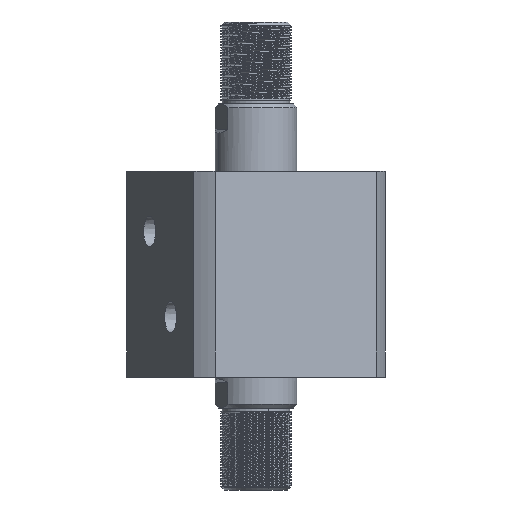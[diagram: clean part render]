
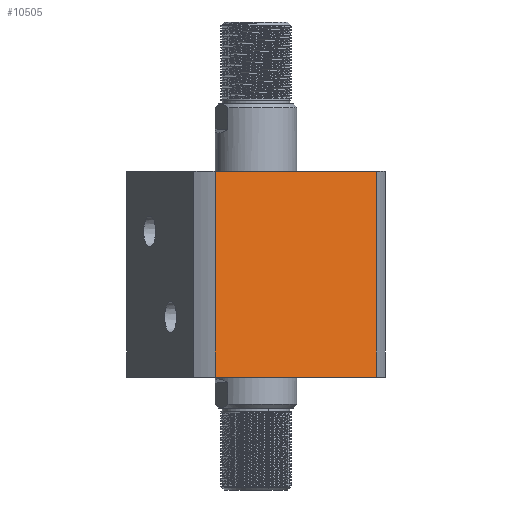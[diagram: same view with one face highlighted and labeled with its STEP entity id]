
A CAD part, front view. The second image highlights one B-rep face of the part: STEP entity #10505.
In plain terms, the highlighted planar face has unit normal (0.383, -0.924, 0) as drawn and (-1, 0, 0) by its records, which use the part's own axes.
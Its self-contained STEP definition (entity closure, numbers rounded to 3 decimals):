
#1343 = CARTESIAN_POINT ( 'NONE',  ( -57., 57., 113. ) ) ;
#1498 = VECTOR ( 'NONE', #13048, 1000. ) ;
#1972 = EDGE_CURVE ( 'NONE', #12703, #7599, #18867, .T. ) ;
#2282 = VECTOR ( 'NONE', #12589, 1000. ) ;
#2599 = CARTESIAN_POINT ( 'NONE',  ( -57., -47.971, -2887. ) ) ;
#3369 = DIRECTION ( 'NONE',  ( 1., 0., 0. ) ) ;
#3516 = CARTESIAN_POINT ( 'NONE',  ( -57., -47.971, 113. ) ) ;
#3568 = LINE ( 'NONE', #2599, #2282 ) ;
#3741 = DIRECTION ( 'NONE',  ( 0., -1., 0. ) ) ;
#4020 = ORIENTED_EDGE ( 'NONE', *, *, #17173, .F. ) ;
#5217 = PLANE ( 'NONE',  #15498 ) ;
#5273 = EDGE_CURVE ( 'NONE', #12703, #20156, #24832, .T. ) ;
#5755 = CARTESIAN_POINT ( 'NONE',  ( -57., 57., 113. ) ) ;
#6266 = CARTESIAN_POINT ( 'NONE',  ( -57., -47.971, 0. ) ) ;
#7599 = VERTEX_POINT ( 'NONE', #6266 ) ;
#7851 = DIRECTION ( 'NONE',  ( 0., 0., 1. ) ) ;
#8734 = ORIENTED_EDGE ( 'NONE', *, *, #21234, .F. ) ;
#8976 = CARTESIAN_POINT ( 'NONE',  ( -57., 57., 0. ) ) ;
#10505 = ADVANCED_FACE ( 'NONE', ( #15419 ), #5217, .F. ) ;
#10650 = ORIENTED_EDGE ( 'NONE', *, *, #5273, .F. ) ;
#12589 = DIRECTION ( 'NONE',  ( 0., 0., -1. ) ) ;
#12703 = VERTEX_POINT ( 'NONE', #23614 ) ;
#13048 = DIRECTION ( 'NONE',  ( 0., -1., 0. ) ) ;
#15419 = FACE_OUTER_BOUND ( 'NONE', #21532, .T. ) ;
#15498 = AXIS2_PLACEMENT_3D ( 'NONE', #1343, #3369, #17483 ) ;
#15794 = LINE ( 'NONE', #5755, #25902 ) ;
#15874 = CARTESIAN_POINT ( 'NONE',  ( -57., 47.971, -2887. ) ) ;
#17173 = EDGE_CURVE ( 'NONE', #23596, #7599, #3568, .T. ) ;
#17483 = DIRECTION ( 'NONE',  ( 0., 1., 0. ) ) ;
#18867 = LINE ( 'NONE', #8976, #1498 ) ;
#19507 = VECTOR ( 'NONE', #7851, 1000. ) ;
#20156 = VERTEX_POINT ( 'NONE', #21196 ) ;
#20755 = ORIENTED_EDGE ( 'NONE', *, *, #1972, .T. ) ;
#21196 = CARTESIAN_POINT ( 'NONE',  ( -57., 47.971, 113. ) ) ;
#21234 = EDGE_CURVE ( 'NONE', #20156, #23596, #15794, .T. ) ;
#21532 = EDGE_LOOP ( 'NONE', ( #10650, #20755, #4020, #8734 ) ) ;
#23596 = VERTEX_POINT ( 'NONE', #3516 ) ;
#23614 = CARTESIAN_POINT ( 'NONE',  ( -57., 47.971, 0. ) ) ;
#24832 = LINE ( 'NONE', #15874, #19507 ) ;
#25902 = VECTOR ( 'NONE', #3741, 1000. ) ;
